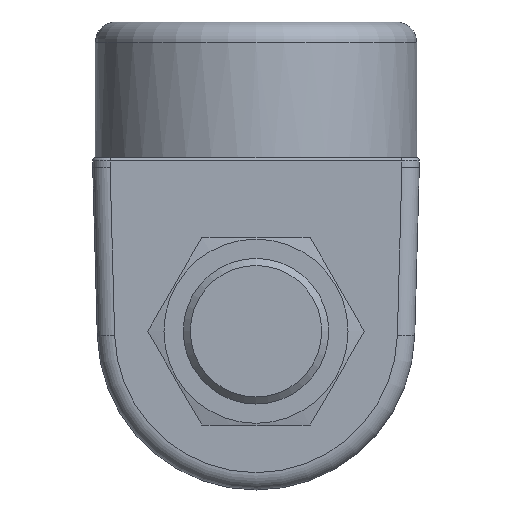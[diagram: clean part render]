
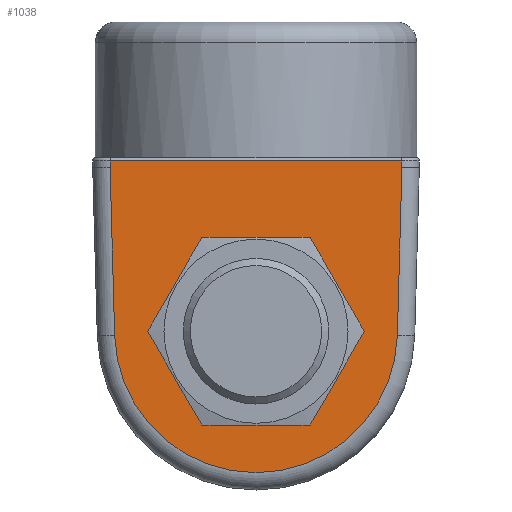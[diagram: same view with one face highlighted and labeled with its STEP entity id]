
A CAD part, left-side view. The second image highlights one B-rep face of the part: STEP entity #1038.
In plain terms, the highlighted planar face has unit normal (-1, 0, 0).
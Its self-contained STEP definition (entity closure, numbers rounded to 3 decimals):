
#39=ELLIPSE('',#1175,2.501,2.5);
#40=ELLIPSE('',#1176,2.501,2.5);
#45=FACE_BOUND('',#293,.T.);
#82=LINE('',#1665,#138);
#94=LINE('',#1704,#150);
#99=LINE('',#1712,#155);
#101=LINE('',#1735,#157);
#102=LINE('',#1739,#158);
#138=VECTOR('',#1334,10.);
#150=VECTOR('',#1388,10.);
#155=VECTOR('',#1399,10.);
#157=VECTOR('',#1433,10.);
#158=VECTOR('',#1436,10.);
#224=FACE_OUTER_BOUND('',#292,.T.);
#292=EDGE_LOOP('',(#761,#762,#763,#764,#765,#766,#767,#768));
#293=EDGE_LOOP('',(#769));
#366=CIRCLE('',#1174,20.35);
#367=CIRCLE('',#1177,13.25);
#405=VERTEX_POINT('',#1616);
#408=VERTEX_POINT('',#1622);
#425=VERTEX_POINT('',#1662);
#426=VERTEX_POINT('',#1664);
#436=VERTEX_POINT('',#1733);
#437=VERTEX_POINT('',#1734);
#438=VERTEX_POINT('',#1736);
#439=VERTEX_POINT('',#1738);
#440=VERTEX_POINT('',#1742);
#515=EDGE_CURVE('',#425,#426,#82,.T.);
#538=EDGE_CURVE('',#426,#408,#94,.T.);
#543=EDGE_CURVE('',#425,#405,#99,.T.);
#553=EDGE_CURVE('',#436,#437,#101,.T.);
#554=EDGE_CURVE('',#438,#436,#366,.T.);
#555=EDGE_CURVE('',#439,#438,#102,.T.);
#556=EDGE_CURVE('',#408,#439,#39,.T.);
#557=EDGE_CURVE('',#437,#405,#40,.T.);
#558=EDGE_CURVE('',#440,#440,#367,.T.);
#761=ORIENTED_EDGE('',*,*,#553,.F.);
#762=ORIENTED_EDGE('',*,*,#554,.F.);
#763=ORIENTED_EDGE('',*,*,#555,.F.);
#764=ORIENTED_EDGE('',*,*,#556,.F.);
#765=ORIENTED_EDGE('',*,*,#538,.F.);
#766=ORIENTED_EDGE('',*,*,#515,.F.);
#767=ORIENTED_EDGE('',*,*,#543,.T.);
#768=ORIENTED_EDGE('',*,*,#557,.F.);
#769=ORIENTED_EDGE('',*,*,#558,.F.);
#922=PLANE('',#1173);
#1038=ADVANCED_FACE('',(#224,#45),#922,.F.);
#1173=AXIS2_PLACEMENT_3D('',#1732,#1431,#1432);
#1174=AXIS2_PLACEMENT_3D('',#1737,#1434,#1435);
#1175=AXIS2_PLACEMENT_3D('',#1740,#1437,#1438);
#1176=AXIS2_PLACEMENT_3D('',#1741,#1439,#1440);
#1177=AXIS2_PLACEMENT_3D('',#1743,#1441,#1442);
#1334=DIRECTION('',(0.,-1.,0.));
#1388=DIRECTION('',(0.,0.,-1.));
#1399=DIRECTION('',(0.,0.,-1.));
#1431=DIRECTION('center_axis',(1.,0.,0.));
#1432=DIRECTION('ref_axis',(0.,1.,0.));
#1433=DIRECTION('',(0.,0.027,1.));
#1434=DIRECTION('center_axis',(1.,0.,0.));
#1435=DIRECTION('ref_axis',(0.,0.,
-1.));
#1436=DIRECTION('',(0.,0.027,-1.));
#1437=DIRECTION('center_axis',(0.,0.,
-1.));
#1438=DIRECTION('ref_axis',(0.,-1.,0.));
#1439=DIRECTION('center_axis',(0.,0.,
-1.));
#1440=DIRECTION('ref_axis',(0.,1.,0.));
#1441=DIRECTION('center_axis',(-1.,0.,0.));
#1442=DIRECTION('ref_axis',(0.,1.,0.));
#1616=CARTESIAN_POINT('',(56.,21.,23.5));
#1622=CARTESIAN_POINT('',(56.,-21.,23.5));
#1662=CARTESIAN_POINT('',(56.,21.,24.5));
#1664=CARTESIAN_POINT('',(56.,-21.,24.5));
#1665=CARTESIAN_POINT('',(56.,10.5,24.5));
#1704=CARTESIAN_POINT('',(56.,-21.,25.));
#1712=CARTESIAN_POINT('',(56.,21.,25.));
#1732=CARTESIAN_POINT('Origin',(56.,0.,4.289));
#1733=CARTESIAN_POINT('',(56.,20.342,-0.555));
#1734=CARTESIAN_POINT('',(56.,20.999,23.5));
#1735=CARTESIAN_POINT('',(56.,20.73,13.649));
#1736=CARTESIAN_POINT('',(56.,-20.342,-0.555));
#1737=CARTESIAN_POINT('Origin',(56.,0.,0.));
#1738=CARTESIAN_POINT('',(56.,-20.999,23.5));
#1739=CARTESIAN_POINT('',(56.,-20.401,1.588));
#1740=CARTESIAN_POINT('Origin',(58.5,-20.999,23.5));
#1741=CARTESIAN_POINT('Origin',(58.5,20.999,23.5));
#1742=CARTESIAN_POINT('',(56.,-13.25,0.));
#1743=CARTESIAN_POINT('Origin',(56.,0.,0.));
